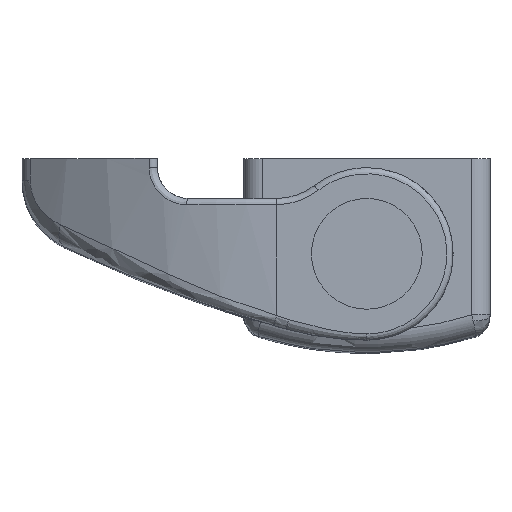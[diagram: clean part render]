
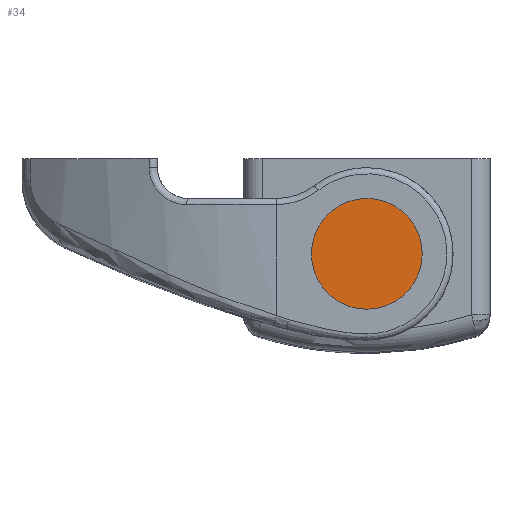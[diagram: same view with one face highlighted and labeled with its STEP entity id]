
A CAD part, top view. The second image highlights one B-rep face of the part: STEP entity #34.
In plain terms, the highlighted planar face has unit normal (0, 0, 1).
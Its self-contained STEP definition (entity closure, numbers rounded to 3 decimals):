
#14 = EDGE_CURVE ( 'NONE', #527, #525, #13344, .T. ) ;
#34 = ADVANCED_FACE ( 'NONE', ( #21891 ), #21892, .T. ) ;
#525 = VERTEX_POINT ( 'NONE', #4677 ) ;
#527 = VERTEX_POINT ( 'NONE', #4678 ) ;
#4677 = CARTESIAN_POINT ( 'NONE',  ( 9., 15.5, 63. ) ) ;
#4678 = CARTESIAN_POINT ( 'NONE',  ( -9., 15.5, 63. ) ) ;
#6139 = EDGE_LOOP ( 'NONE', ( #16876, #16877 ) ) ;
#7586 = CARTESIAN_POINT ( 'NONE',  ( 0., 15.5, 63. ) ) ;
#7587 = DIRECTION ( 'NONE',  ( 0., 0., 1. ) ) ;
#7588 = DIRECTION ( 'NONE',  ( 1., 0., 0. ) ) ;
#9833 = CIRCLE ( 'NONE', #9837, 9. ) ;
#9837 = AXIS2_PLACEMENT_3D ( 'NONE', #7586, #7587, #7588 ) ;
#13344 = CIRCLE ( 'NONE', #13348, 9. ) ;
#13348 = AXIS2_PLACEMENT_3D ( 'NONE', #21768, #21769, #21770 ) ;
#13402 = AXIS2_PLACEMENT_3D ( 'NONE', #21888, #21895, #21896 ) ;
#16876 = ORIENTED_EDGE ( 'NONE', *, *, #14, .T. ) ;
#16877 = ORIENTED_EDGE ( 'NONE', *, *, #17627, .T. ) ;
#17627 = EDGE_CURVE ( 'NONE', #525, #527, #9833, .T. ) ;
#21768 = CARTESIAN_POINT ( 'NONE',  ( 0., 15.5, 63. ) ) ;
#21769 = DIRECTION ( 'NONE',  ( 0., 0., 1. ) ) ;
#21770 = DIRECTION ( 'NONE',  ( 1., 0., 0. ) ) ;
#21888 = CARTESIAN_POINT ( 'NONE',  ( 0., 15.5, 63. ) ) ;
#21891 = FACE_OUTER_BOUND ( 'NONE', #6139, .T. ) ;
#21892 = PLANE ( 'NONE',  #13402 ) ;
#21895 = DIRECTION ( 'NONE',  ( 0., 0., 1. ) ) ;
#21896 = DIRECTION ( 'NONE',  ( 1., 0., 0. ) ) ;
